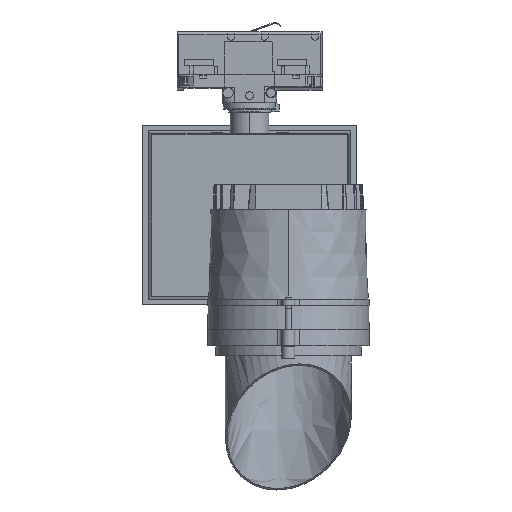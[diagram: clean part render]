
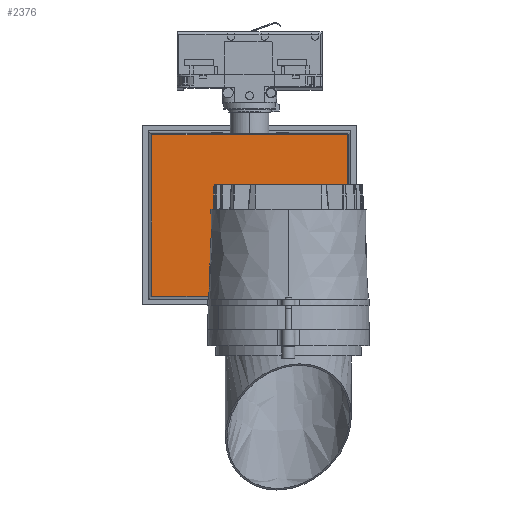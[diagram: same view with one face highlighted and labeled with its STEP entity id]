
A CAD part, left-side view. The second image highlights one B-rep face of the part: STEP entity #2376.
In plain terms, the highlighted planar face has unit normal (-1, 0, 0).
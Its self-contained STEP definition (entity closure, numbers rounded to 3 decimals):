
#1568=FACE_BOUND('',#4163,.T.);
#2376=ADVANCED_FACE('',(#3253,#1568),#22026,.T.);
#3253=FACE_OUTER_BOUND('',#4162,.T.);
#4162=EDGE_LOOP('',(#8575,#8576,#8577,#8578));
#4163=EDGE_LOOP('',(#8579));
#8575=ORIENTED_EDGE('',*,*,#12942,.F.);
#8576=ORIENTED_EDGE('',*,*,#12940,.F.);
#8577=ORIENTED_EDGE('',*,*,#12941,.F.);
#8578=ORIENTED_EDGE('',*,*,#12943,.T.);
#8579=ORIENTED_EDGE('',*,*,#12944,.F.);
#12940=EDGE_CURVE('',#21497,#21496,#15333,.T.);
#12941=EDGE_CURVE('',#21498,#21497,#15334,.T.);
#12942=EDGE_CURVE('',#21496,#21499,#15335,.T.);
#12943=EDGE_CURVE('',#21498,#21499,#15336,.T.);
#12944=EDGE_CURVE('',#21495,#21495,#17427,.T.);
#15333=B_SPLINE_CURVE_WITH_KNOTS('',1,(#57114,#57115),.UNSPECIFIED.,.F.,
 .F.,(2,2),(-120.826,0.),.UNSPECIFIED.);
#15334=B_SPLINE_CURVE_WITH_KNOTS('',1,(#57116,#57117),.UNSPECIFIED.,.F.,
 .F.,(2,2),(-99.826,0.),.UNSPECIFIED.);
#15335=B_SPLINE_CURVE_WITH_KNOTS('',1,(#57118,#57119),.UNSPECIFIED.,.F.,
 .F.,(2,2),(-99.826,0.),.UNSPECIFIED.);
#15336=B_SPLINE_CURVE_WITH_KNOTS('',1,(#57120,#57121),.UNSPECIFIED.,.F.,
 .F.,(2,2),(0.,120.826),.UNSPECIFIED.);
#17427=(
BOUNDED_CURVE()
B_SPLINE_CURVE(2,(#57122,#57123,#57124,#57125,#57126,#57127,#57128,#57129,
#57130,#57131,#57132,#57133,#57134),.UNSPECIFIED.,.T.,.F.)
B_SPLINE_CURVE_WITH_KNOTS((3,2,2,2,2,2,3),(32.987,35.61,
50.792,65.973,68.597,83.778,98.96),
 .UNSPECIFIED.)
CURVE()
GEOMETRIC_REPRESENTATION_ITEM()
RATIONAL_B_SPLINE_CURVE((1.,0.992,1.,0.75,1.,0.75,
1.,0.992,1.,0.75,1.,0.75,1.))
REPRESENTATION_ITEM('')
);
#21495=VERTEX_POINT('',#57109);
#21496=VERTEX_POINT('',#57110);
#21497=VERTEX_POINT('',#57111);
#21498=VERTEX_POINT('',#57112);
#21499=VERTEX_POINT('',#57113);
#22026=PLANE('',#22983);
#22983=AXIS2_PLACEMENT_3D('',#57108,#23278,$);
#23278=DIRECTION('',(-1.,0.,0.));
#57108=CARTESIAN_POINT('',(14.,145.105,37.384));
#57109=CARTESIAN_POINT('',(14.,58.5,-36.621));
#57110=CARTESIAN_POINT('',(14.,11.587,26.792));
#57111=CARTESIAN_POINT('',(14.,132.413,26.792));
#57112=CARTESIAN_POINT('',(14.,132.413,-73.034));
#57113=CARTESIAN_POINT('',(14.,11.587,-73.034));
#57114=CARTESIAN_POINT('',(14.,132.413,26.792));
#57115=CARTESIAN_POINT('',(14.,11.587,26.792));
#57116=CARTESIAN_POINT('',(14.,132.413,-73.034));
#57117=CARTESIAN_POINT('',(14.,132.413,26.792));
#57118=CARTESIAN_POINT('',(14.,11.587,26.792));
#57119=CARTESIAN_POINT('',(14.,11.587,-73.034));
#57120=CARTESIAN_POINT('',(14.,132.413,-73.034));
#57121=CARTESIAN_POINT('',(14.,11.587,-73.034));
#57122=CARTESIAN_POINT('',(14.,58.5,-36.621));
#57123=CARTESIAN_POINT('',(14.,58.5,-37.94));
#57124=CARTESIAN_POINT('',(14.,58.174,-39.217));
#57125=CARTESIAN_POINT('',(14.,55.883,-48.194));
#57126=CARTESIAN_POINT('',(14.,46.692,-47.039));
#57127=CARTESIAN_POINT('',(14.,37.5,-45.885));
#57128=CARTESIAN_POINT('',(14.,37.5,-36.621));
#57129=CARTESIAN_POINT('',(14.,37.5,-35.303));
#57130=CARTESIAN_POINT('',(14.,37.826,-34.025));
#57131=CARTESIAN_POINT('',(14.,40.117,-25.049));
#57132=CARTESIAN_POINT('',(14.,49.308,-26.203));
#57133=CARTESIAN_POINT('',(14.,58.5,-27.357));
#57134=CARTESIAN_POINT('',(14.,58.5,-36.621));
